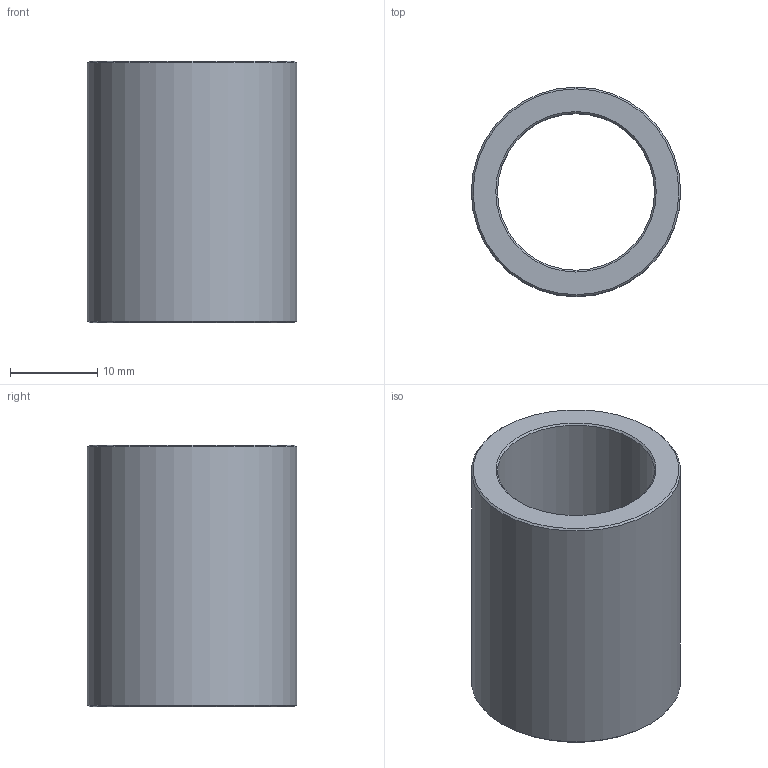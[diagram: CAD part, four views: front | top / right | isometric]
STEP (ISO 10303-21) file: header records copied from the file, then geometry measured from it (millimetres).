
FILE_DESCRIPTION(('STEP AP203'),'1');
FILE_NAME('C:/Users/Rodrigo/Desktop/GA3.018.030-1.step','2016-11-07T13:00:48',(' '),(' '),'Spatial InterOp 3D',' ',' ');
FILE_SCHEMA(('CONFIG_CONTROL_DESIGN'));
Length unit declared in the file: millimetre
Products named in the file (1): 1
Bounding box: 24 x 24 x 30 mm (x, y, z)
Volume: 5932.3 mm3; surface area: 4323.3 mm2
Topology: 1 solids, 1 shells, 8 faces, 14 edges, 8 vertices
Faces by surface type: cone 4, cylinder 2, plane 2
Full cylindrical faces by diameter (mm): 18 x1, 24 x1
Entity records: 212 total; most frequent: DIRECTION 34, CARTESIAN_POINT 25, AXIS2_PLACEMENT_3D 17, EDGE_LOOP 16, ORIENTED_EDGE 16, FACE_OUTER_BOUND 10, ADVANCED_FACE 8, EDGE_CURVE 8
